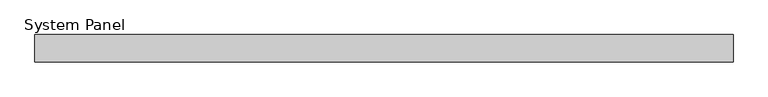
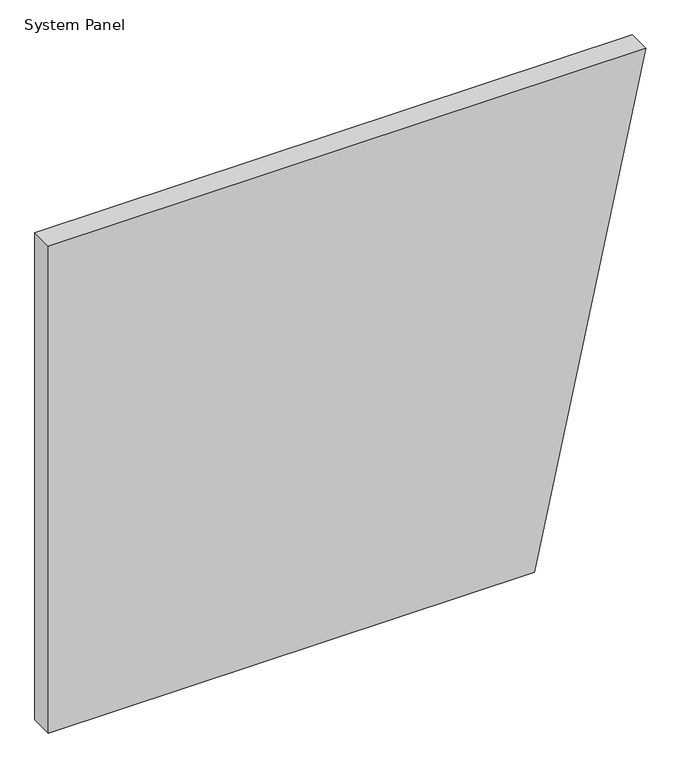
"""IFC4 building model written with IfcOpenShell, lengths in millimetres: plate geometry, System Panel : Inspire 50mm Horizontal - Plain RHEA-PIR."""

from ifc_helpers import new_model, si_unit, frame, origin, place, context, project, spatial, polyline, outline, extrude, source, transform, mapped, element, save


def system_panel_9f17affc(model_context):
    return source(origin(), model_context, "Body", "SweptSolid", [
        extrude(outline(polyline([(0.0, -639.1323567), (0.0, 400.0), (1100.0, 639.1323567), (1100.0, -639.1323567), (0.0, -639.1323567)])), frame((0.0, -50.0, 0.0), z_axis=(0.0, 1.0, 0.0), x_axis=(0.0, 0.0, 1.0)), (0.0, 0.0, 1.0), 50.0),
    ])


if __name__ == "__main__":
    model = new_model("IFC4")
    model_context = context("Model", 3, world=origin())
    ifc_project = project(units=[si_unit("LENGTHUNIT", "METRE", prefix="MILLI")], contexts=[model_context])
    site = spatial("IfcSite", under=ifc_project)
    building = spatial("IfcBuilding", under=site)
    placement = place(None, origin())
    system_panel_shape = system_panel_9f17affc(model_context)
    element("IfcPlate", 1, ObjectType="System Panel : Inspire 50mm Horizontal - Plain RHEA-PIR", at=placement, inside=building, context=model_context, shape_type="MappedRepresentation", body=[
        mapped(system_panel_shape, transform((0.0, 0.0, 0.0), x_axis=(1.0, 0.0, 0.0), y_axis=(0.0, 1.0, 0.0), z_axis=(0.0, 0.0, 1.0))),
    ])
    save(model, "model.ifc")
